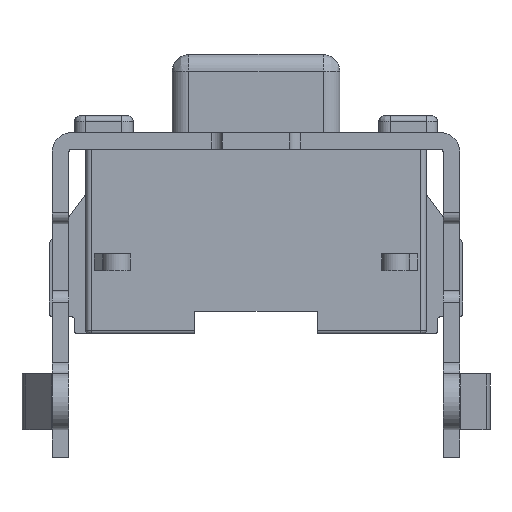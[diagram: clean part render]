
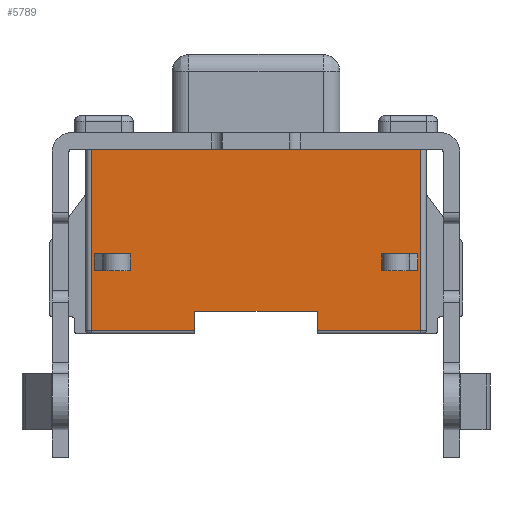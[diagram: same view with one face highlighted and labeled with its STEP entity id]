
A CAD part, front view. The second image highlights one B-rep face of the part: STEP entity #5789.
In plain terms, the highlighted planar face has unit normal (0, -1, 0).
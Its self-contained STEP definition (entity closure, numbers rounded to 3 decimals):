
#189 = DIRECTION ( 'NONE',  ( 0., 0., 1. ) ) ;
#220 = CARTESIAN_POINT ( 'NONE',  ( -1.1, -1.75, -3.25 ) ) ;
#453 = CARTESIAN_POINT ( 'NONE',  ( 1.1, -1.75, -2.9 ) ) ;
#729 = DIRECTION ( 'NONE',  ( 0., 0., -1. ) ) ;
#785 = VECTOR ( 'NONE', #8929, 1000. ) ;
#860 = CARTESIAN_POINT ( 'NONE',  ( 2.25, -1.75, -2.17 ) ) ;
#883 = CARTESIAN_POINT ( 'NONE',  ( 2.9, -1.75, -2.17 ) ) ;
#964 = DIRECTION ( 'NONE',  ( 1., 0., 0. ) ) ;
#976 = CARTESIAN_POINT ( 'NONE',  ( 2.25, -1.75, -2.17 ) ) ;
#1065 = ORIENTED_EDGE ( 'NONE', *, *, #6435, .F. ) ;
#1067 = CARTESIAN_POINT ( 'NONE',  ( 0., -1.75, -1.87 ) ) ;
#1102 = LINE ( 'NONE', #5608, #7640 ) ;
#1153 = LINE ( 'NONE', #860, #2919 ) ;
#1190 = LINE ( 'NONE', #9316, #3217 ) ;
#1301 = EDGE_LOOP ( 'NONE', ( #3611, #2672, #2132, #2082 ) ) ;
#1375 = ORIENTED_EDGE ( 'NONE', *, *, #3413, .T. ) ;
#1441 = ORIENTED_EDGE ( 'NONE', *, *, #1957, .F. ) ;
#1469 = CARTESIAN_POINT ( 'NONE',  ( 0., -1.75, -2.9 ) ) ;
#1833 = LINE ( 'NONE', #5253, #6112 ) ;
#1883 = ORIENTED_EDGE ( 'NONE', *, *, #5125, .F. ) ;
#1957 = EDGE_CURVE ( 'NONE', #5474, #7730, #8967, .T. ) ;
#2014 = DIRECTION ( 'NONE',  ( -1., 0., 0. ) ) ;
#2034 = ORIENTED_EDGE ( 'NONE', *, *, #8772, .F. ) ;
#2062 = EDGE_CURVE ( 'NONE', #7716, #8718, #1190, .T. ) ;
#2082 = ORIENTED_EDGE ( 'NONE', *, *, #3620, .F. ) ;
#2095 = AXIS2_PLACEMENT_3D ( 'NONE', #9878, #4693, #10758 ) ;
#2132 = ORIENTED_EDGE ( 'NONE', *, *, #5498, .F. ) ;
#2149 = DIRECTION ( 'NONE',  ( 0., 0., -1. ) ) ;
#2554 = CARTESIAN_POINT ( 'NONE',  ( 2.25, -1.75, -1.87 ) ) ;
#2598 = VECTOR ( 'NONE', #189, 1000. ) ;
#2671 = VECTOR ( 'NONE', #729, 1000. ) ;
#2672 = ORIENTED_EDGE ( 'NONE', *, *, #2062, .F. ) ;
#2758 = VECTOR ( 'NONE', #4712, 1000. ) ;
#2771 = LINE ( 'NONE', #10610, #4763 ) ;
#2779 = LINE ( 'NONE', #1067, #7311 ) ;
#2838 = LINE ( 'NONE', #3030, #7083 ) ;
#2919 = VECTOR ( 'NONE', #11143, 1000. ) ;
#2971 = CARTESIAN_POINT ( 'NONE',  ( 2.25, -1.75, -1.87 ) ) ;
#3030 = CARTESIAN_POINT ( 'NONE',  ( -2.9, -1.75, 0. ) ) ;
#3217 = VECTOR ( 'NONE', #3351, 1000. ) ;
#3244 = EDGE_LOOP ( 'NONE', ( #1441, #7077, #9713, #8044 ) ) ;
#3272 = LINE ( 'NONE', #1469, #7775 ) ;
#3325 = CARTESIAN_POINT ( 'NONE',  ( -1.1, -1.75, -2.9 ) ) ;
#3351 = DIRECTION ( 'NONE',  ( 0., 0., 1. ) ) ;
#3413 = EDGE_CURVE ( 'NONE', #3928, #7118, #10916, .T. ) ;
#3611 = ORIENTED_EDGE ( 'NONE', *, *, #8019, .F. ) ;
#3620 = EDGE_CURVE ( 'NONE', #8180, #7735, #2838, .T. ) ;
#3877 = CARTESIAN_POINT ( 'NONE',  ( 2.95, -1.75, 0. ) ) ;
#3928 = VERTEX_POINT ( 'NONE', #10496 ) ;
#4101 = FACE_BOUND ( 'NONE', #1301, .T. ) ;
#4139 = CARTESIAN_POINT ( 'NONE',  ( 2.95, -1.75, -3.25 ) ) ;
#4305 = ORIENTED_EDGE ( 'NONE', *, *, #5982, .T. ) ;
#4431 = CARTESIAN_POINT ( 'NONE',  ( -1.1, -1.75, -2.9 ) ) ;
#4470 = CARTESIAN_POINT ( 'NONE',  ( -2.95, -1.75, -3.25 ) ) ;
#4611 = CARTESIAN_POINT ( 'NONE',  ( -2.9, -1.75, -1.87 ) ) ;
#4691 = VECTOR ( 'NONE', #5279, 1000. ) ;
#4693 = DIRECTION ( 'NONE',  ( 0., 1., 0. ) ) ;
#4712 = DIRECTION ( 'NONE',  ( 0., 0., -1. ) ) ;
#4763 = VECTOR ( 'NONE', #2014, 1000. ) ;
#4969 = VECTOR ( 'NONE', #6076, 1000. ) ;
#5125 = EDGE_CURVE ( 'NONE', #3928, #8453, #9616, .T. ) ;
#5253 = CARTESIAN_POINT ( 'NONE',  ( 0., -1.75, -2.17 ) ) ;
#5279 = DIRECTION ( 'NONE',  ( 0., 0., 1. ) ) ;
#5319 = ORIENTED_EDGE ( 'NONE', *, *, #10312, .F. ) ;
#5474 = VERTEX_POINT ( 'NONE', #2554 ) ;
#5498 = EDGE_CURVE ( 'NONE', #7735, #7716, #1153, .T. ) ;
#5519 = PLANE ( 'NONE',  #2095 ) ;
#5533 = CARTESIAN_POINT ( 'NONE',  ( 1.1, -1.75, -3.25 ) ) ;
#5608 = CARTESIAN_POINT ( 'NONE',  ( 0., -1.75, -3.25 ) ) ;
#5666 = LINE ( 'NONE', #4431, #2598 ) ;
#5789 = ADVANCED_FACE ( 'NONE', ( #8637, #4101, #8372 ), #5519, .F. ) ;
#5982 = EDGE_CURVE ( 'NONE', #7014, #6283, #5666, .T. ) ;
#6076 = DIRECTION ( 'NONE',  ( 0., 0., 1. ) ) ;
#6112 = VECTOR ( 'NONE', #964, 1000. ) ;
#6283 = VERTEX_POINT ( 'NONE', #3325 ) ;
#6407 = VERTEX_POINT ( 'NONE', #883 ) ;
#6435 = EDGE_CURVE ( 'NONE', #8587, #7118, #6929, .T. ) ;
#6541 = VERTEX_POINT ( 'NONE', #9825 ) ;
#6549 = DIRECTION ( 'NONE',  ( 0., 0., -1. ) ) ;
#6929 = LINE ( 'NONE', #10405, #4969 ) ;
#6949 = LINE ( 'NONE', #9604, #4691 ) ;
#7014 = VERTEX_POINT ( 'NONE', #220 ) ;
#7033 = DIRECTION ( 'NONE',  ( -1., 0., 0. ) ) ;
#7038 = DIRECTION ( 'NONE',  ( -1., 0., 0. ) ) ;
#7077 = ORIENTED_EDGE ( 'NONE', *, *, #7092, .T. ) ;
#7083 = VECTOR ( 'NONE', #2149, 1000. ) ;
#7092 = EDGE_CURVE ( 'NONE', #5474, #6541, #7577, .T. ) ;
#7118 = VERTEX_POINT ( 'NONE', #10722 ) ;
#7311 = VECTOR ( 'NONE', #7038, 1000. ) ;
#7430 = DIRECTION ( 'NONE',  ( -1., 0., 0. ) ) ;
#7577 = LINE ( 'NONE', #2971, #785 ) ;
#7613 = CARTESIAN_POINT ( 'NONE',  ( -2.9, -1.75, -2.17 ) ) ;
#7640 = VECTOR ( 'NONE', #8282, 1000. ) ;
#7716 = VERTEX_POINT ( 'NONE', #10382 ) ;
#7730 = VERTEX_POINT ( 'NONE', #976 ) ;
#7734 = CARTESIAN_POINT ( 'NONE',  ( 2.25, -1.75, -2.17 ) ) ;
#7735 = VERTEX_POINT ( 'NONE', #7613 ) ;
#7755 = EDGE_LOOP ( 'NONE', ( #1065, #8879, #4305, #2034, #10512, #5319, #1883, #1375 ) ) ;
#7775 = VECTOR ( 'NONE', #7430, 1000. ) ;
#7967 = EDGE_CURVE ( 'NONE', #7730, #6407, #1833, .T. ) ;
#8019 = EDGE_CURVE ( 'NONE', #8718, #8180, #2779, .T. ) ;
#8044 = ORIENTED_EDGE ( 'NONE', *, *, #7967, .F. ) ;
#8180 = VERTEX_POINT ( 'NONE', #4611 ) ;
#8227 = VERTEX_POINT ( 'NONE', #453 ) ;
#8282 = DIRECTION ( 'NONE',  ( -1., 0., 0. ) ) ;
#8318 = VECTOR ( 'NONE', #7033, 1000. ) ;
#8372 = FACE_BOUND ( 'NONE', #3244, .T. ) ;
#8453 = VERTEX_POINT ( 'NONE', #4139 ) ;
#8587 = VERTEX_POINT ( 'NONE', #4470 ) ;
#8637 = FACE_OUTER_BOUND ( 'NONE', #7755, .T. ) ;
#8692 = VECTOR ( 'NONE', #6549, 1000. ) ;
#8718 = VERTEX_POINT ( 'NONE', #10800 ) ;
#8768 = CARTESIAN_POINT ( 'NONE',  ( 0.8, -1.75, 0. ) ) ;
#8772 = EDGE_CURVE ( 'NONE', #8227, #6283, #3272, .T. ) ;
#8879 = ORIENTED_EDGE ( 'NONE', *, *, #9177, .F. ) ;
#8929 = DIRECTION ( 'NONE',  ( 1., 0., 0. ) ) ;
#8967 = LINE ( 'NONE', #7734, #8692 ) ;
#9095 = VERTEX_POINT ( 'NONE', #5533 ) ;
#9177 = EDGE_CURVE ( 'NONE', #7014, #8587, #1102, .T. ) ;
#9316 = CARTESIAN_POINT ( 'NONE',  ( -2.25, -1.75, -2.17 ) ) ;
#9339 = EDGE_CURVE ( 'NONE', #8227, #9095, #9519, .T. ) ;
#9519 = LINE ( 'NONE', #11020, #2671 ) ;
#9604 = CARTESIAN_POINT ( 'NONE',  ( 2.9, -1.75, 0. ) ) ;
#9616 = LINE ( 'NONE', #3877, #2758 ) ;
#9713 = ORIENTED_EDGE ( 'NONE', *, *, #10786, .F. ) ;
#9825 = CARTESIAN_POINT ( 'NONE',  ( 2.9, -1.75, -1.87 ) ) ;
#9878 = CARTESIAN_POINT ( 'NONE',  ( 0., -1.75, 0. ) ) ;
#10312 = EDGE_CURVE ( 'NONE', #8453, #9095, #2771, .T. ) ;
#10382 = CARTESIAN_POINT ( 'NONE',  ( -2.25, -1.75, -2.17 ) ) ;
#10405 = CARTESIAN_POINT ( 'NONE',  ( -2.95, -1.75, 0. ) ) ;
#10496 = CARTESIAN_POINT ( 'NONE',  ( 2.95, -1.75, 0. ) ) ;
#10512 = ORIENTED_EDGE ( 'NONE', *, *, #9339, .T. ) ;
#10610 = CARTESIAN_POINT ( 'NONE',  ( 0., -1.75, -3.25 ) ) ;
#10722 = CARTESIAN_POINT ( 'NONE',  ( -2.95, -1.75, 0. ) ) ;
#10758 = DIRECTION ( 'NONE',  ( 0., 0., 1. ) ) ;
#10786 = EDGE_CURVE ( 'NONE', #6407, #6541, #6949, .T. ) ;
#10800 = CARTESIAN_POINT ( 'NONE',  ( -2.25, -1.75, -1.87 ) ) ;
#10916 = LINE ( 'NONE', #8768, #8318 ) ;
#11020 = CARTESIAN_POINT ( 'NONE',  ( 1.1, -1.75, -2.9 ) ) ;
#11143 = DIRECTION ( 'NONE',  ( 1., 0., 0. ) ) ;
